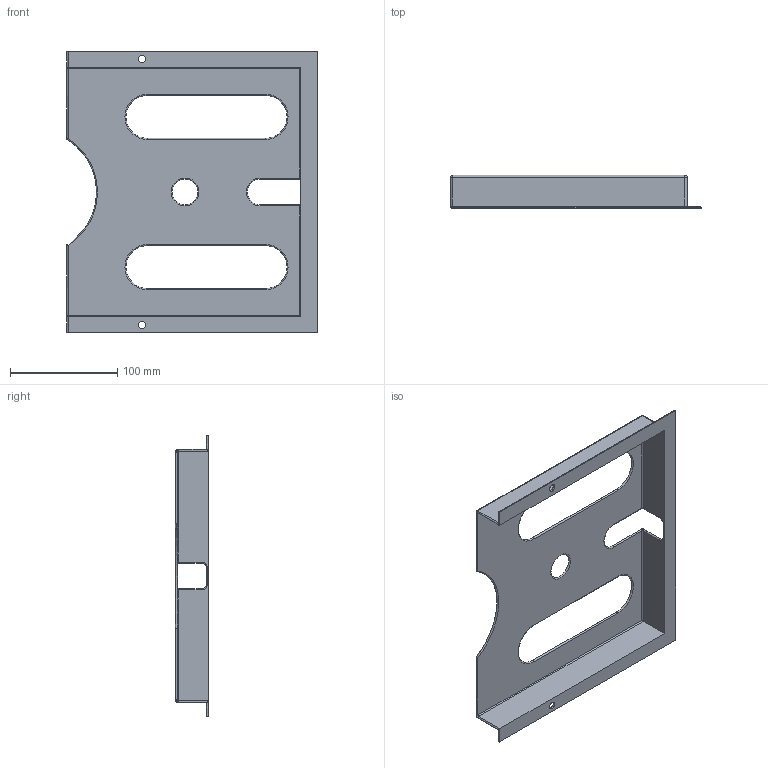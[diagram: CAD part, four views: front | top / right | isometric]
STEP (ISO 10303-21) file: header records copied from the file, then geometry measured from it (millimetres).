
FILE_DESCRIPTION(('STEP AP214'), '1');
FILE_NAME('dp 40 p 忺謽鳧', '2017-06-06T07:00:48', (''), (''), 'ASCON STEP Converter 1.3', 'ASCON Math Kernel', '');
FILE_SCHEMA(('AUTOMOTIVE_DESIGN { 1 0 10303 214 3 1 1}'));
Length unit declared in the file: millimetre
Bounding box: 233 x 31 x 262 mm (x, y, z)
Volume: 128742.4 mm3; surface area: 131758.5 mm2
Topology: 1 solids, 1 shells, 67 faces, 173 edges, 104 vertices
Faces by surface type: cylinder 30, plane 18, torus 17, sphere 2
Full cylindrical faces by diameter (mm): 7 x2
Entity records: 2711 total; most frequent: CARTESIAN_POINT 476, DIRECTION 370, ORIENTED_EDGE 336, EDGE_CURVE 168, AXIS2_PLACEMENT_3D 146, VERTEX_POINT 104, EDGE_LOOP 80, LINE 78
